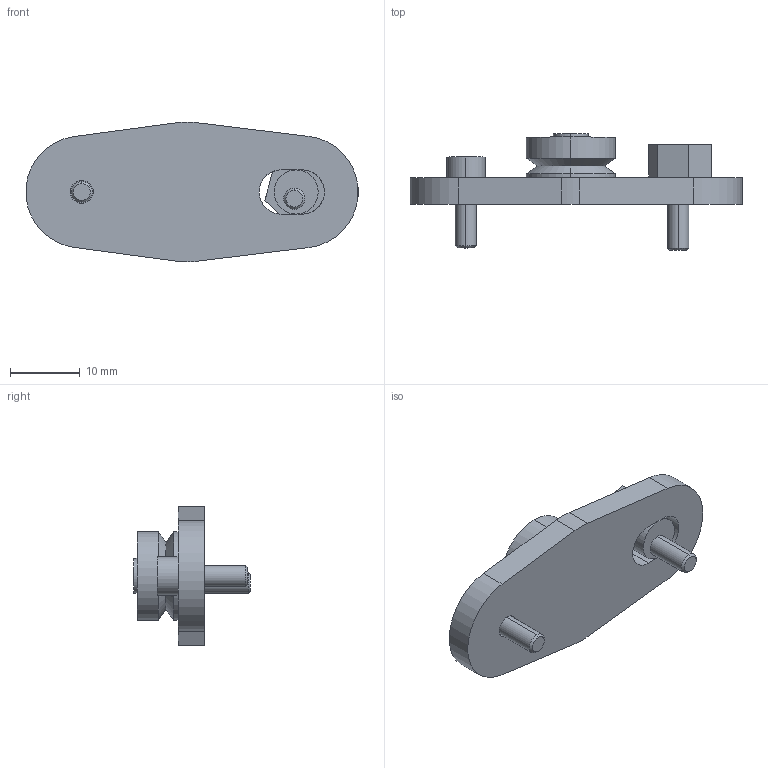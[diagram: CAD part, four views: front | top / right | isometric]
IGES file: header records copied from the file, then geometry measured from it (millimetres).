
Start section: 3D InterOp IGES (Version 21 0 1), Spatial Corp. Copyright (c) 1999-2007.
Global section: file name: RBHJ13ENS.igs; native system: Spatial Corp.; preprocessor: 3D InterOp GENERIC/IGES 3.0; author: Noname; organization: Noname; date: 20220627.165143; units: millimetre
Bounding box: 47.44 x 16.7 x 19.99 mm (x, y, z)
Surface area: 2842.1 mm2 (no closed solid volume)
Topology: 0 solids, 0 shells, 78 faces, 378 edges, 378 vertices
Faces by surface type: extrusion 45, revolution 33
